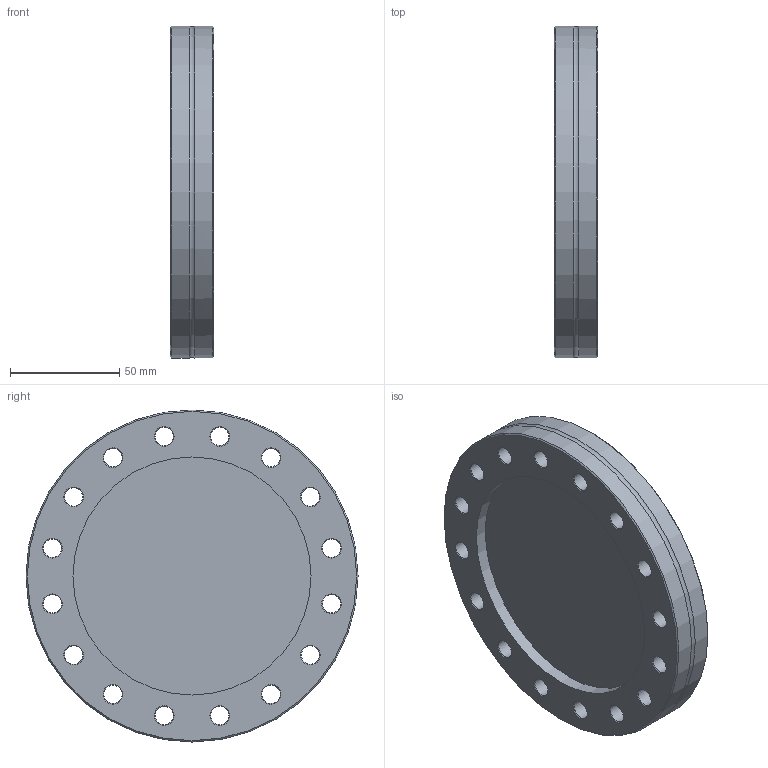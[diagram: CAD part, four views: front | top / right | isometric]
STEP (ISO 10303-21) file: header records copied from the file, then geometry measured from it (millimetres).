
FILE_DESCRIPTION((''),'2;1');
FILE_NAME('W:\13785_CF_Global_Fit_Umsetzung\023_Blank_Flange_Rotable\M213-114.stp','2010-09-01T10:10:29',('KAA'),(''),'Autodesk Inventor 2011','Autodesk Inventor 2011','');
FILE_SCHEMA(('AUTOMOTIVE_DESIGN { 1 0 10303 214 1 1 1 1 }'));
Length unit declared in the file: millimetre
Products named in the file (1): 213-114
Bounding box: 20 x 152 x 152 mm (x, y, z)
Volume: 275645.9 mm3; surface area: 64771 mm2
Topology: 1 solids, 1 shells, 160 faces, 414 edges, 268 vertices
Faces by surface type: plane 52, cone 39, bspline 35, cylinder 31, torus 3
Full cylindrical faces by diameter (mm): 8.4 x16, 109 x1, 120.4 x1, 120.6 x1, 152 x2
Entity records: 13714 total; most frequent: CARTESIAN_POINT 10251, ORIENTED_EDGE 672, DIRECTION 578, EDGE_CURVE 336, EDGE_LOOP 265, VERTEX_POINT 251, AXIS2_PLACEMENT_3D 235, FACE_OUTER_BOUND 160
